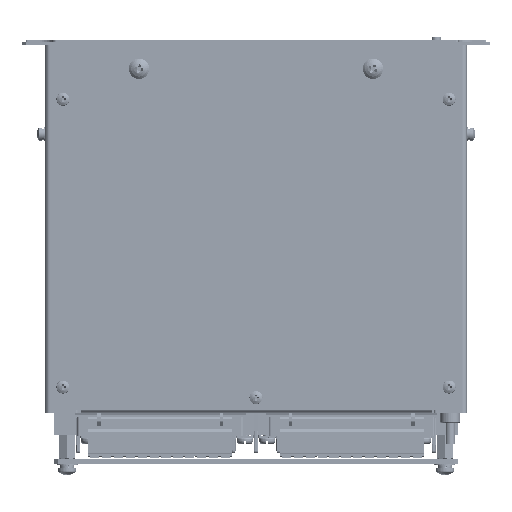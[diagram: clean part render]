
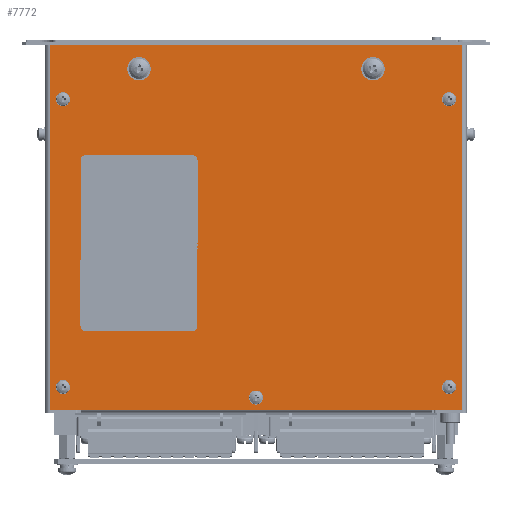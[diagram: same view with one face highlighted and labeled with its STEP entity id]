
A CAD part, left-side view. The second image highlights one B-rep face of the part: STEP entity #7772.
In plain terms, the highlighted planar face has unit normal (-1, 0, 0) as drawn and (0, 0, 1) by its records, which use the part's own axes.
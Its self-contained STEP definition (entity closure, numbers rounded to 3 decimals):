
#7772=ADVANCED_FACE('',(#270724,#270726,#270728,#270730,#270732,#270734,#270736,
#270738),#270740,.T.);
#270724=FACE_BOUND('',#270725,.T.);
#270725=EDGE_LOOP('',(#491667,#491668,#491669,#491670));
#270726=FACE_BOUND('',#270727,.T.);
#270727=EDGE_LOOP('',(#491671));
#270728=FACE_BOUND('',#270729,.T.);
#270729=EDGE_LOOP('',(#491672));
#270730=FACE_BOUND('',#270731,.T.);
#270731=EDGE_LOOP('',(#491673));
#270732=FACE_BOUND('',#270733,.T.);
#270733=EDGE_LOOP('',(#491674));
#270734=FACE_BOUND('',#270735,.T.);
#270735=EDGE_LOOP('',(#491675));
#270736=FACE_BOUND('',#270737,.T.);
#270737=EDGE_LOOP('',(#491676));
#270738=FACE_BOUND('',#270739,.T.);
#270739=EDGE_LOOP('',(#491677));
#270740=PLANE('',#270741);
#270741=AXIS2_PLACEMENT_3D('',#270742,#270743,#270744);
#270742=CARTESIAN_POINT('',(0.,0.,1.));
#270743=DIRECTION('',(0.,0.,1.));
#270744=DIRECTION('',(1.,0.,0.));
#491667=ORIENTED_EDGE('',*,*,#674002,.T.);
#491668=ORIENTED_EDGE('',*,*,#674003,.T.);
#491669=ORIENTED_EDGE('',*,*,#674004,.T.);
#491670=ORIENTED_EDGE('',*,*,#674005,.T.);
#491671=ORIENTED_EDGE('',*,*,#674006,.T.);
#491672=ORIENTED_EDGE('',*,*,#674007,.T.);
#491673=ORIENTED_EDGE('',*,*,#674008,.T.);
#491674=ORIENTED_EDGE('',*,*,#674009,.T.);
#491675=ORIENTED_EDGE('',*,*,#674010,.T.);
#491676=ORIENTED_EDGE('',*,*,#674011,.T.);
#491677=ORIENTED_EDGE('',*,*,#674012,.T.);
#674002=EDGE_CURVE('',#761539,#761540,#761541,.T.);
#674003=EDGE_CURVE('',#761540,#761542,#761543,.T.);
#674004=EDGE_CURVE('',#761542,#761544,#761545,.T.);
#674005=EDGE_CURVE('',#761544,#761539,#761546,.T.);
#674006=EDGE_CURVE('',#761547,#761547,#761548,.F.);
#674007=EDGE_CURVE('',#761549,#761549,#761550,.F.);
#674008=EDGE_CURVE('',#761551,#761551,#761552,.F.);
#674009=EDGE_CURVE('',#761553,#761553,#761554,.F.);
#674010=EDGE_CURVE('',#761555,#761555,#761556,.F.);
#674011=EDGE_CURVE('',#761557,#761557,#761558,.F.);
#674012=EDGE_CURVE('',#761559,#761559,#761560,.F.);
#761539=VERTEX_POINT('',#906441);
#761540=VERTEX_POINT('',#906442);
#761541=LINE('',#906443,#906444);
#761542=VERTEX_POINT('',#906446);
#761543=LINE('',#906447,#906448);
#761544=VERTEX_POINT('',#906450);
#761545=LINE('',#906451,#906452);
#761546=LINE('',#906454,#906455);
#761547=VERTEX_POINT('',#906457);
#761548=CIRCLE('',#906458,1.75);
#761549=VERTEX_POINT('',#906462);
#761550=CIRCLE('',#906463,2.25);
#761551=VERTEX_POINT('',#906467);
#761552=CIRCLE('',#906468,2.25);
#761553=VERTEX_POINT('',#906472);
#761554=CIRCLE('',#906473,1.75);
#761555=VERTEX_POINT('',#906477);
#761556=CIRCLE('',#906478,1.75);
#761557=VERTEX_POINT('',#906482);
#761558=CIRCLE('',#906483,1.75);
#761559=VERTEX_POINT('',#906487);
#761560=CIRCLE('',#906488,1.75);
#906441=CARTESIAN_POINT('',(78.,88.,1.));
#906442=CARTESIAN_POINT('',(-78.,88.,1.));
#906443=CARTESIAN_POINT('',(78.,88.,1.));
#906444=VECTOR('',#906445,1.);
#906445=DIRECTION('',(-1.,0.,0.));
#906446=CARTESIAN_POINT('',(-78.,-88.,1.));
#906447=CARTESIAN_POINT('',(-78.,88.,1.));
#906448=VECTOR('',#906449,1.);
#906449=DIRECTION('',(0.,-1.,0.));
#906450=CARTESIAN_POINT('',(78.,-88.,1.));
#906451=CARTESIAN_POINT('',(-78.,-88.,1.));
#906452=VECTOR('',#906453,1.);
#906453=DIRECTION('',(1.,0.,0.));
#906454=CARTESIAN_POINT('',(78.,-88.,1.));
#906455=VECTOR('',#906456,1.);
#906456=DIRECTION('',(0.,1.,0.));
#906457=CARTESIAN_POINT('',(74.25,0.,1.));
#906458=AXIS2_PLACEMENT_3D('',#906459,#906460,#906461);
#906459=CARTESIAN_POINT('',(72.5,0.,1.));
#906460=DIRECTION('',(0.,0.,1.));
#906461=DIRECTION('',(1.,0.,0.));
#906462=CARTESIAN_POINT('',(-65.75,50.,1.));
#906463=AXIS2_PLACEMENT_3D('',#906464,#906465,#906466);
#906464=CARTESIAN_POINT('',(-68.,50.,1.));
#906465=DIRECTION('',(0.,0.,1.));
#906466=DIRECTION('',(1.,0.,0.));
#906467=CARTESIAN_POINT('',(-65.75,-50.,1.));
#906468=AXIS2_PLACEMENT_3D('',#906469,#906470,#906471);
#906469=CARTESIAN_POINT('',(-68.,-50.,1.));
#906470=DIRECTION('',(0.,0.,1.));
#906471=DIRECTION('',(1.,0.,0.));
#906472=CARTESIAN_POINT('',(-53.25,82.5,1.));
#906473=AXIS2_PLACEMENT_3D('',#906474,#906475,#906476);
#906474=CARTESIAN_POINT('',(-55.,82.5,1.));
#906475=DIRECTION('',(0.,0.,1.));
#906476=DIRECTION('',(1.,0.,0.));
#906477=CARTESIAN_POINT('',(69.75,82.5,1.));
#906478=AXIS2_PLACEMENT_3D('',#906479,#906480,#906481);
#906479=CARTESIAN_POINT('',(68.,82.5,1.));
#906480=DIRECTION('',(0.,0.,1.));
#906481=DIRECTION('',(1.,0.,0.));
#906482=CARTESIAN_POINT('',(-53.25,-82.5,1.));
#906483=AXIS2_PLACEMENT_3D('',#906484,#906485,#906486);
#906484=CARTESIAN_POINT('',(-55.,-82.5,1.));
#906485=DIRECTION('',(0.,0.,1.));
#906486=DIRECTION('',(1.,0.,0.));
#906487=CARTESIAN_POINT('',(69.75,-82.5,1.));
#906488=AXIS2_PLACEMENT_3D('',#906489,#906490,#906491);
#906489=CARTESIAN_POINT('',(68.,-82.5,1.));
#906490=DIRECTION('',(0.,0.,1.));
#906491=DIRECTION('',(1.,0.,0.));
